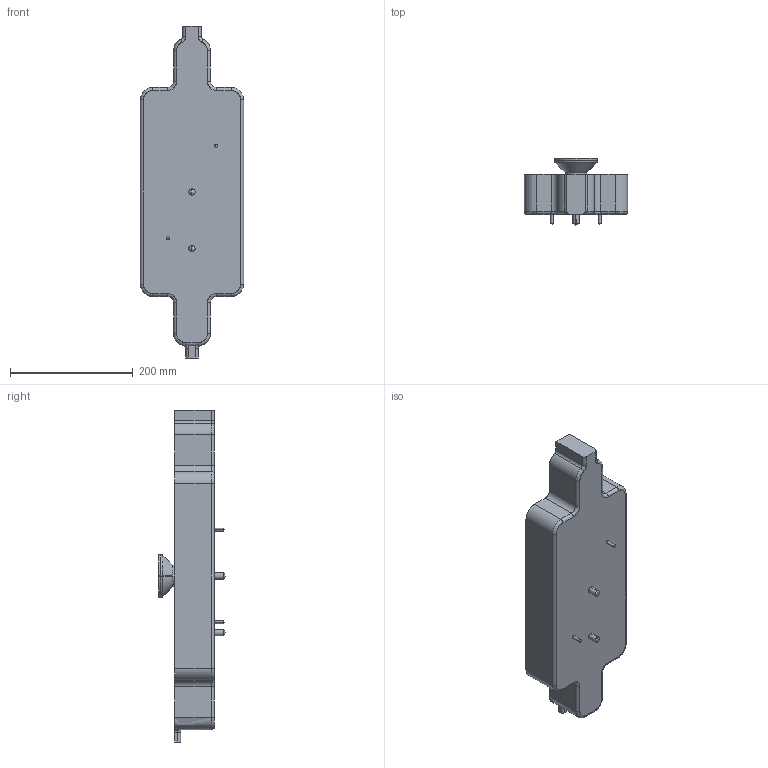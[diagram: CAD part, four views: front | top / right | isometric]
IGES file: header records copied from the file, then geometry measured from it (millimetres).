
Start section: SolidWorks IGES file using analytic representation for surfaces
Global section: file name: F:\CARTELLA CONDIVISA - 3D\01 - Piastre - 3D\Piastre Standard - Resistenza Sezione Quadrata 6x6\LP2-A06\Parte Multicorpo + Positivo Sede\CCLP2AQ-06T\SEDE CCLP2AQ-06T.IGS; native system: SolidWorks 2013; preprocessor: SolidWorks 2013; author: ws-20; date: 140131.090548; units: millimetre
Bounding box: 168 x 108.89 x 540 mm (x, y, z)
Surface area: 225525 mm2 (no closed solid volume)
Topology: 0 solids, 0 shells, 92 faces, 859 edges, 1068 vertices
Faces by surface type: revolution 53, bspline 39
